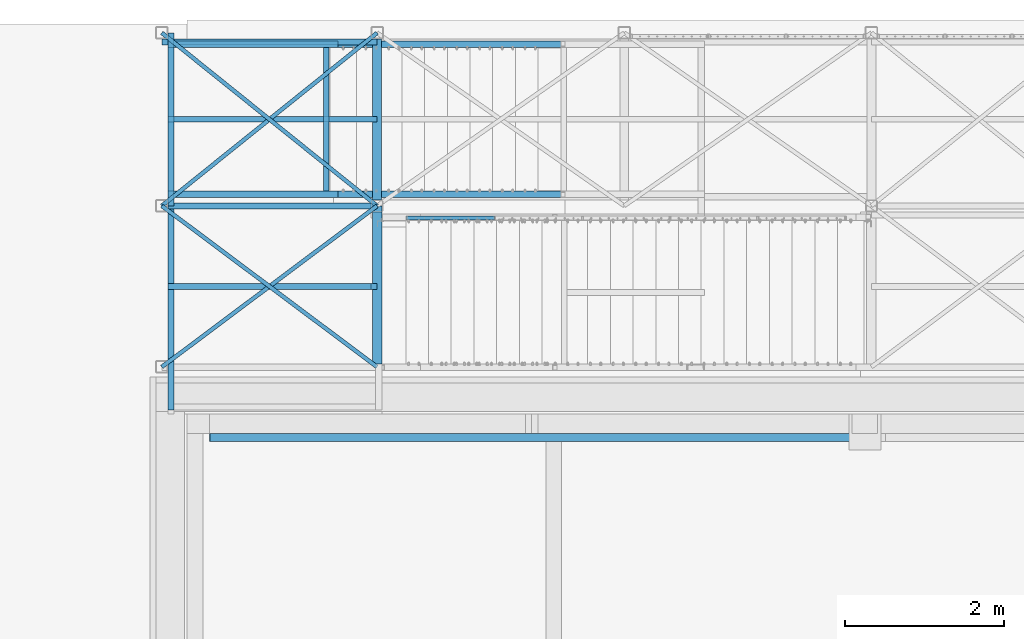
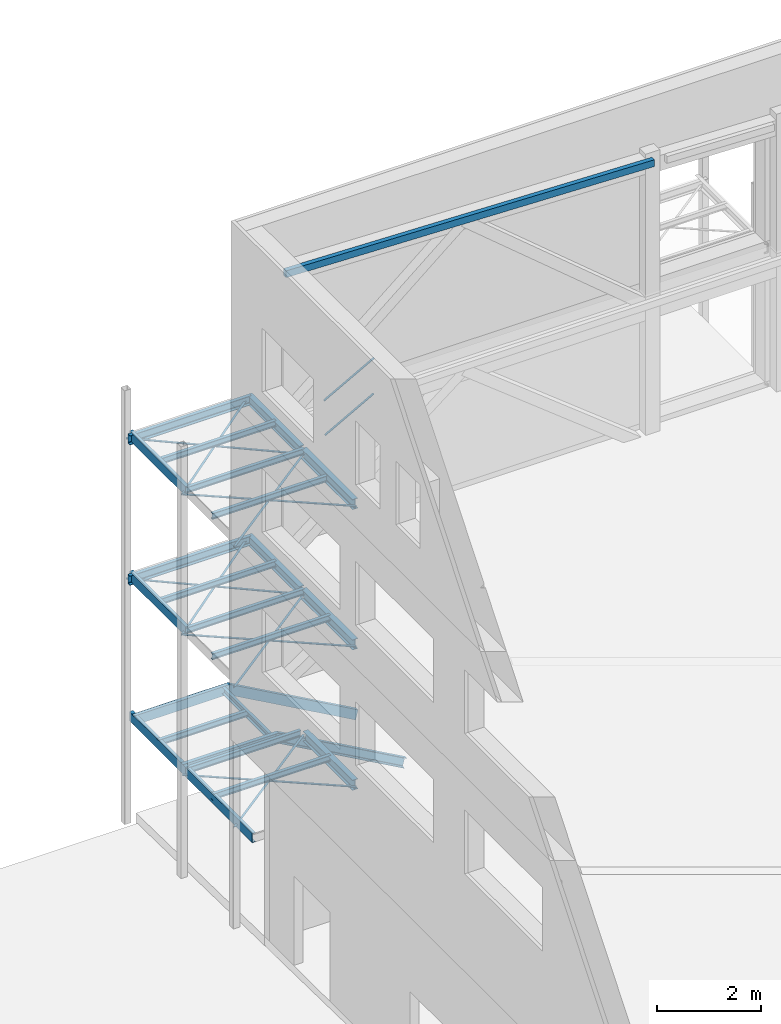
# One storey, part 30 of 78: 34 beams, 4 members, 35 elements without a shape of their own.
"""IFC2X3 building model written with IfcOpenShell, lengths in millimetres."""

from ifc_helpers import new_model, si_unit, frame, origin_with_axes, origin_2d_with_axis, place, context, subcontext, project, spatial, rectangle, i_section, l_section, u_section, extrude, boolean, clip, halfspace, material, type_object, element, aggregate, save


model = new_model("IFC2X3")

# Units and contexts
model_context = context("Model", 3, precision=1e-05, world=origin_with_axes())
body_context = subcontext(model_context, "Body", "Model", "MODEL_VIEW")
ifc_project = project(units=[si_unit("LENGTHUNIT", "METRE", prefix="MILLI"), si_unit("AREAUNIT", "SQUARE_METRE"), si_unit("VOLUMEUNIT", "CUBIC_METRE"), si_unit("MASSUNIT", "GRAM", prefix="KILO"), si_unit("TIMEUNIT", "SECOND"), si_unit("PLANEANGLEUNIT", "RADIAN"), si_unit("SOLIDANGLEUNIT", "STERADIAN"), si_unit("THERMODYNAMICTEMPERATUREUNIT", "DEGREE_CELSIUS"), si_unit("LUMINOUSINTENSITYUNIT", "LUMEN")], contexts=[model_context])

# Site, building, storey
site_placement = place(None, origin_with_axes())
site = spatial("IfcSite", under=ifc_project, at=site_placement, Name="Site", CompositionType="ELEMENT")
building_placement = place(site_placement, origin_with_axes())
building = spatial("IfcBuilding", under=site, at=building_placement, Name="Undefined", CompositionType="ELEMENT")
storey_placement = place(building_placement, origin_with_axes())
storey = spatial("IfcBuildingStorey", under=building, at=storey_placement, Name="Undefined", CompositionType="ELEMENT", Elevation=0.0)

# Assembly, beam
assembly_1_placement = place(storey_placement, origin_with_axes())
assembly_1 = element("IfcElementAssembly", 1, at=assembly_1_placement, inside=storey, AssemblyPlace="NOTDEFINED", PredefinedType="RIGID_FRAME")
ifc_material_1 = material(Name="STEEL/S235JR")
beam_type_1 = type_object("IfcBeamType", Name="UPN220", PredefinedType="NOTDEFINED")
beam_1_placement = place(assembly_1_placement, frame((-7326.42999992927, 30893.0000000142, 149960.039999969), z_axis=(0.0, 0.0, 1.0), x_axis=(1.0, 0.0, 0.0)))
beam_1 = element("IfcBeam", 2, at=beam_1_placement, type_object=beam_type_1, material=ifc_material_1, Name="LIMON", ObjectType="UPN220", context=body_context, shape_type="Clipping", body=[
    clip(extrude(u_section(Depth=220.0, FlangeWidth=80.0, WebThickness=9.0, FlangeThickness=12.5, FilletRadius=12.5, EdgeRadius=6.5, FlangeSlope=0.0798299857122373, at=origin_2d_with_axis()), frame((2133.89188770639, 0.0, 0.0), z_axis=(-1.0, 0.0, 0.0), x_axis=(0.0, -1.0, 0.0)), (0.0, 0.0, 1.0), 2133.89), halfspace(frame((2133.60501558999, -40.0000000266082, 110.000000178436), z_axis=(-0.967635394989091, 0.0, 0.252352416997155), x_axis=(0.0, -1.0, 0.0)), True)),
])

assembly_2_placement = place(storey_placement, origin_with_axes())
assembly_2 = element("IfcElementAssembly", 3, at=assembly_2_placement, inside=storey, AssemblyPlace="NOTDEFINED", PredefinedType="RIGID_FRAME")
beam_2_placement = place(assembly_2_placement, frame((-5192.82498437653, 32772.9999999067, 149960.039999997), z_axis=(0.0, 0.0, 1.0), x_axis=(-1.0, 0.0, 0.0)))
beam_2 = element("IfcBeam", 4, at=beam_2_placement, type_object=beam_type_1, material=ifc_material_1, Name="LIMON", ObjectType="UPN220", context=body_context, shape_type="Clipping", body=[
    clip(extrude(u_section(Depth=220.0, FlangeWidth=80.0, WebThickness=9.0, FlangeThickness=12.5, FilletRadius=12.5, EdgeRadius=6.5, FlangeSlope=0.0798299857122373, at=origin_2d_with_axis()), frame((2133.60501558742, 0.0, 0.0), z_axis=(-1.0, 0.0, 0.0), x_axis=(0.0, -1.0, 0.0)), (0.0, 0.0, 1.0), 2133.89), halfspace(frame((-1.64160519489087e-06, -39.9999999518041, 109.99999989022), z_axis=(-0.967635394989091, 0.0, -0.252352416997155), x_axis=(0.0, -1.0, 0.0)), False)),
])

assembly_3_placement = place(storey_placement, origin_with_axes())
assembly_3 = element("IfcElementAssembly", 5, at=assembly_3_placement, inside=storey, Name="POUTRE", AssemblyPlace="NOTDEFINED", PredefinedType="RIGID_FRAME")
ifc_material_2 = material(Name="STEEL/S275JR")
beam_3_placement = place(assembly_3_placement, frame((-7286.43, 30748.0, 156560.04), z_axis=(0.0, 0.0, 1.0), x_axis=(0.0, 1.0, 0.0)))
beam_3 = element("IfcBeam", 6, at=beam_3_placement, type_object=beam_type_1, material=ifc_material_2, Name="POUTRE", ObjectType="UPN220", context=body_context, shape_type="SweptSolid", body=[
    extrude(u_section(Depth=220.0, FlangeWidth=80.0, WebThickness=9.0, FlangeThickness=12.5, FilletRadius=12.5, EdgeRadius=6.5, FlangeSlope=0.0798299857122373, at=origin_2d_with_axis()), frame((2169.99999999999, 0.0, 0.0), z_axis=(-1.0, 0.0, 0.0), x_axis=(0.0, -1.0, 0.0)), (0.0, 0.0, 1.0), 2170.0),
])
aggregate(assembly_3, [beam_3])

assembly_4_placement = place(storey_placement, origin_with_axes())
assembly_4 = element("IfcElementAssembly", 7, at=assembly_4_placement, inside=storey, Name="POUTRE", AssemblyPlace="NOTDEFINED", PredefinedType="RIGID_FRAME")
beam_4_placement = place(assembly_4_placement, frame((-7401.43, 32803.0, 156560.04), z_axis=(0.0, 0.0, 1.0), x_axis=(1.0, 0.0, 0.0)))
beam_4 = element("IfcBeam", 8, at=beam_4_placement, type_object=beam_type_1, material=ifc_material_2, Name="POUTRE", ObjectType="UPN220", context=body_context, shape_type="SweptSolid", body=[
    extrude(u_section(Depth=220.0, FlangeWidth=80.0, WebThickness=9.0, FlangeThickness=12.5, FilletRadius=12.5, EdgeRadius=6.5, FlangeSlope=0.0798299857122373, at=origin_2d_with_axis()), frame((2699.99999999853, 0.0, 0.0), z_axis=(-1.0, 0.0, 0.0), x_axis=(0.0, -1.0, 0.0)), (0.0, 0.0, 1.0), 2700.0),
])
aggregate(assembly_4, [beam_4])

assembly_5_placement = place(storey_placement, origin_with_axes())
assembly_5 = element("IfcElementAssembly", 9, at=assembly_5_placement, inside=storey, Name="POUTRE", AssemblyPlace="NOTDEFINED", PredefinedType="RIGID_FRAME")
beam_5_placement = place(assembly_5_placement, frame((-7286.43, 30748.0, 153260.04), z_axis=(0.0, 0.0, 1.0), x_axis=(0.0, 1.0, 0.0)))
beam_5 = element("IfcBeam", 10, at=beam_5_placement, type_object=beam_type_1, material=ifc_material_2, Name="POUTRE", ObjectType="UPN220", context=body_context, shape_type="SweptSolid", body=[
    extrude(u_section(Depth=220.0, FlangeWidth=80.0, WebThickness=9.0, FlangeThickness=12.5, FilletRadius=12.5, EdgeRadius=6.5, FlangeSlope=0.0798299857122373, at=origin_2d_with_axis()), frame((2169.99999999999, 0.0, 0.0), z_axis=(-1.0, 0.0, 0.0), x_axis=(0.0, -1.0, 0.0)), (0.0, 0.0, 1.0), 2170.0),
])
aggregate(assembly_5, [beam_5])

assembly_6_placement = place(storey_placement, origin_with_axes())
assembly_6 = element("IfcElementAssembly", 11, at=assembly_6_placement, inside=storey, Name="STAB", AssemblyPlace="NOTDEFINED", PredefinedType="RIGID_FRAME")
beam_6_placement = place(assembly_6_placement, frame((-7401.43, 32803.0, 153260.04), z_axis=(0.0, 0.0, 1.0), x_axis=(1.0, 0.0, 0.0)))
beam_6 = element("IfcBeam", 12, at=beam_6_placement, type_object=beam_type_1, material=ifc_material_2, Name="POUTRE", ObjectType="UPN220", context=body_context, shape_type="SweptSolid", body=[
    extrude(u_section(Depth=220.0, FlangeWidth=80.0, WebThickness=9.0, FlangeThickness=12.5, FilletRadius=12.5, EdgeRadius=6.5, FlangeSlope=0.0798299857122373, at=origin_2d_with_axis()), frame((2699.99999999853, 0.0, 0.0), z_axis=(-1.0, 0.0, 0.0), x_axis=(0.0, -1.0, 0.0)), (0.0, 0.0, 1.0), 2700.0),
])
aggregate(assembly_6, [beam_6])

assembly_7_placement = place(storey_placement, origin_with_axes())
assembly_7 = element("IfcElementAssembly", 13, at=assembly_7_placement, inside=storey, Name="POUTRE", AssemblyPlace="NOTDEFINED", PredefinedType="RIGID_FRAME")
beam_7_placement = place(assembly_7_placement, frame((-7286.43, 30748.0, 149960.04), z_axis=(0.0, 0.0, 1.0), x_axis=(0.0, 1.0, 0.0)))
beam_7 = element("IfcBeam", 14, at=beam_7_placement, type_object=beam_type_1, material=ifc_material_2, Name="SOLIVE", ObjectType="UPN220", context=body_context, shape_type="SweptSolid", body=[
    extrude(u_section(Depth=220.0, FlangeWidth=80.0, WebThickness=9.0, FlangeThickness=12.5, FilletRadius=12.5, EdgeRadius=6.5, FlangeSlope=0.0798299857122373, at=origin_2d_with_axis()), frame((2169.99999999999, 0.0, 0.0), z_axis=(-1.0, 0.0, 0.0), x_axis=(0.0, -1.0, 0.0)), (0.0, 0.0, 1.0), 2170.0),
])
aggregate(assembly_7, [beam_7])

assembly_8_placement = place(storey_placement, origin_with_axes())
assembly_8 = element("IfcElementAssembly", 15, at=assembly_8_placement, inside=storey, Name="POUTRE", AssemblyPlace="NOTDEFINED", PredefinedType="RIGID_FRAME")
beam_8_placement = place(assembly_8_placement, frame((-7286.43, 28185.0, 149960.04), z_axis=(0.0, 0.0, 1.0), x_axis=(0.0, 1.0, 0.0)))
beam_8 = element("IfcBeam", 16, at=beam_8_placement, type_object=beam_type_1, material=ifc_material_2, Name="SOLIVE", ObjectType="UPN220", context=body_context, shape_type="SweptSolid", body=[
    extrude(u_section(Depth=220.0, FlangeWidth=80.0, WebThickness=9.0, FlangeThickness=12.5, FilletRadius=12.5, EdgeRadius=6.5, FlangeSlope=0.0798299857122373, at=origin_2d_with_axis()), frame((2563.0, 0.0, 0.0), z_axis=(-1.0, 0.0, 0.0), x_axis=(0.0, -1.0, 0.0)), (0.0, 0.0, 1.0), 2563.0),
])
aggregate(assembly_8, [beam_8])

assembly_9_placement = place(storey_placement, origin_with_axes())
assembly_9 = element("IfcElementAssembly", 17, at=assembly_9_placement, inside=storey, Name="STAB", AssemblyPlace="NOTDEFINED", PredefinedType="RIGID_FRAME")
beam_type_2 = type_object("IfcBeamType", Name="L50*5", PredefinedType="NOTDEFINED")
beam_9_placement = place(assembly_9_placement, frame((-4701.4299999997, 28727.9999999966, 156505.04), z_axis=(0.0, 0.0, -1.0), x_axis=(-0.800711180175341, 0.599050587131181, 0.0)))
beam_9 = element("IfcBeam", 18, at=beam_9_placement, type_object=beam_type_2, material=ifc_material_1, Name="STAB", ObjectType="L50*5", context=body_context, shape_type="SweptSolid", body=[
    extrude(l_section(Depth=50.0, Width=50.0, Thickness=5.0, FilletRadius=7.0, EdgeRadius=3.5, at=origin_2d_with_axis()), frame((3372.00237247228, 1.87183733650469e-13, 0.0), z_axis=(-1.0, 0.0, 0.0), x_axis=(0.0, -1.0, 0.0)), (0.0, 0.0, 1.0), 3372.0),
])
aggregate(assembly_9, [beam_9])

assembly_10_placement = place(storey_placement, origin_with_axes())
assembly_10 = element("IfcElementAssembly", 19, at=assembly_10_placement, inside=storey, Name="STAB", AssemblyPlace="NOTDEFINED", PredefinedType="RIGID_FRAME")
beam_10_placement = place(assembly_10_placement, frame((-4701.43000000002, 30748.0, 156505.04), z_axis=(0.0, 0.0, -1.0), x_axis=(-0.80071118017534, -0.599050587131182, 0.0)))
beam_10 = element("IfcBeam", 20, at=beam_10_placement, type_object=beam_type_2, material=ifc_material_1, Name="STAB", ObjectType="L50*5", context=body_context, shape_type="SweptSolid", body=[
    extrude(l_section(Depth=50.0, Width=50.0, Thickness=5.0, FilletRadius=7.0, EdgeRadius=3.5, at=origin_2d_with_axis()), frame((3372.00237247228, 1.87183733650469e-13, 0.0), z_axis=(-1.0, 0.0, 0.0), x_axis=(0.0, -1.0, 0.0)), (0.0, 0.0, 1.0), 3372.0),
])
aggregate(assembly_10, [beam_10])

assembly_11_placement = place(storey_placement, origin_with_axes())
assembly_11 = element("IfcElementAssembly", 21, at=assembly_11_placement, inside=storey, Name="STAB", AssemblyPlace="NOTDEFINED", PredefinedType="RIGID_FRAME")
beam_11_placement = place(assembly_11_placement, frame((-4701.43000000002, 30748.0, 156505.04), z_axis=(0.0, 0.0, -1.0), x_axis=(-0.779458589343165, 0.626453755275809, 0.0)))
beam_11 = element("IfcBeam", 22, at=beam_11_placement, type_object=beam_type_2, material=ifc_material_1, Name="STAB", ObjectType="L50*5", context=body_context, shape_type="SweptSolid", body=[
    extrude(l_section(Depth=50.0, Width=50.0, Thickness=5.0, FilletRadius=7.0, EdgeRadius=3.5, at=origin_2d_with_axis()), frame((3463.94284017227, 0.0, 2.91038304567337e-11), z_axis=(-1.0, 0.0, 0.0), x_axis=(0.0, -1.0, 0.0)), (0.0, 0.0, 1.0), 3463.94),
])
aggregate(assembly_11, [beam_11])

assembly_12_placement = place(storey_placement, origin_with_axes())
assembly_12 = element("IfcElementAssembly", 23, at=assembly_12_placement, inside=storey, Name="STAB", AssemblyPlace="NOTDEFINED", PredefinedType="RIGID_FRAME")
beam_12_placement = place(assembly_12_placement, frame((-4701.43000000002, 32918.0, 156505.04), z_axis=(0.0, 0.0, -1.0), x_axis=(-0.779458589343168, -0.626453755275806, 0.0)))
beam_12 = element("IfcBeam", 24, at=beam_12_placement, type_object=beam_type_2, material=ifc_material_1, Name="STAB", ObjectType="L50*5", context=body_context, shape_type="SweptSolid", body=[
    extrude(l_section(Depth=50.0, Width=50.0, Thickness=5.0, FilletRadius=7.0, EdgeRadius=3.5, at=origin_2d_with_axis()), frame((3463.94284017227, 0.0, 2.91038304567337e-11), z_axis=(-1.0, 0.0, 0.0), x_axis=(0.0, -1.0, 0.0)), (0.0, 0.0, 1.0), 3463.94),
])
aggregate(assembly_12, [beam_12])

assembly_13_placement = place(storey_placement, origin_with_axes())
assembly_13 = element("IfcElementAssembly", 25, at=assembly_13_placement, inside=storey, Name="STAB", AssemblyPlace="NOTDEFINED", PredefinedType="RIGID_FRAME")
beam_13_placement = place(assembly_13_placement, frame((-4701.4299999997, 28727.9999999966, 153205.04), z_axis=(0.0, 0.0, -1.0), x_axis=(-0.800711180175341, 0.599050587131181, 0.0)))
beam_13 = element("IfcBeam", 26, at=beam_13_placement, type_object=beam_type_2, material=ifc_material_1, Name="STAB", ObjectType="L50*5", context=body_context, shape_type="SweptSolid", body=[
    extrude(l_section(Depth=50.0, Width=50.0, Thickness=5.0, FilletRadius=7.0, EdgeRadius=3.5, at=origin_2d_with_axis()), frame((3372.00237247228, 1.87183733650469e-13, 0.0), z_axis=(-1.0, 0.0, 0.0), x_axis=(0.0, -1.0, 0.0)), (0.0, 0.0, 1.0), 3372.0),
])
aggregate(assembly_13, [beam_13])

assembly_14_placement = place(storey_placement, origin_with_axes())
assembly_14 = element("IfcElementAssembly", 27, at=assembly_14_placement, inside=storey, Name="STAB", AssemblyPlace="NOTDEFINED", PredefinedType="RIGID_FRAME")
beam_14_placement = place(assembly_14_placement, frame((-4701.43000000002, 30748.0, 153205.04), z_axis=(0.0, 0.0, -1.0), x_axis=(-0.80071118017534, -0.599050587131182, 0.0)))
beam_14 = element("IfcBeam", 28, at=beam_14_placement, type_object=beam_type_2, material=ifc_material_1, Name="STAB", ObjectType="L50*5", context=body_context, shape_type="SweptSolid", body=[
    extrude(l_section(Depth=50.0, Width=50.0, Thickness=5.0, FilletRadius=7.0, EdgeRadius=3.5, at=origin_2d_with_axis()), frame((3372.00237247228, 1.87183733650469e-13, 0.0), z_axis=(-1.0, 0.0, 0.0), x_axis=(0.0, -1.0, 0.0)), (0.0, 0.0, 1.0), 3372.0),
])
aggregate(assembly_14, [beam_14])

assembly_15_placement = place(storey_placement, origin_with_axes())
assembly_15 = element("IfcElementAssembly", 29, at=assembly_15_placement, inside=storey, Name="STAB", AssemblyPlace="NOTDEFINED", PredefinedType="RIGID_FRAME")
beam_15_placement = place(assembly_15_placement, frame((-4701.43000000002, 30748.0, 153205.04), z_axis=(0.0, 0.0, -1.0), x_axis=(-0.779458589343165, 0.626453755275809, 0.0)))
beam_15 = element("IfcBeam", 30, at=beam_15_placement, type_object=beam_type_2, material=ifc_material_1, Name="STAB", ObjectType="L50*5", context=body_context, shape_type="SweptSolid", body=[
    extrude(l_section(Depth=50.0, Width=50.0, Thickness=5.0, FilletRadius=7.0, EdgeRadius=3.5, at=origin_2d_with_axis()), frame((3463.94284017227, 0.0, 2.91038304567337e-11), z_axis=(-1.0, 0.0, 0.0), x_axis=(0.0, -1.0, 0.0)), (0.0, 0.0, 1.0), 3463.94),
])
aggregate(assembly_15, [beam_15])

assembly_16_placement = place(storey_placement, origin_with_axes())
assembly_16 = element("IfcElementAssembly", 31, at=assembly_16_placement, inside=storey, Name="STAB", AssemblyPlace="NOTDEFINED", PredefinedType="RIGID_FRAME")
beam_16_placement = place(assembly_16_placement, frame((-4701.43000000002, 32918.0, 153205.04), z_axis=(0.0, 0.0, -1.0), x_axis=(-0.779458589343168, -0.626453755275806, 0.0)))
beam_16 = element("IfcBeam", 32, at=beam_16_placement, type_object=beam_type_2, material=ifc_material_1, Name="STAB", ObjectType="L50*5", context=body_context, shape_type="SweptSolid", body=[
    extrude(l_section(Depth=50.0, Width=50.0, Thickness=5.0, FilletRadius=7.0, EdgeRadius=3.5, at=origin_2d_with_axis()), frame((3463.94284017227, 0.0, 2.91038304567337e-11), z_axis=(-1.0, 0.0, 0.0), x_axis=(0.0, -1.0, 0.0)), (0.0, 0.0, 1.0), 3463.94),
])
aggregate(assembly_16, [beam_16])

assembly_17_placement = place(storey_placement, origin_with_axes())
assembly_17 = element("IfcElementAssembly", 33, at=assembly_17_placement, inside=storey, Name="STAB", AssemblyPlace="NOTDEFINED", PredefinedType="RIGID_FRAME")
beam_17_placement = place(assembly_17_placement, frame((-4701.4299999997, 28727.9999999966, 149905.04), z_axis=(0.0, 0.0, -1.0), x_axis=(-0.800711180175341, 0.599050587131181, 0.0)))
beam_17 = element("IfcBeam", 34, at=beam_17_placement, type_object=beam_type_2, material=ifc_material_1, Name="STAB", ObjectType="L50*5", context=body_context, shape_type="SweptSolid", body=[
    extrude(l_section(Depth=50.0, Width=50.0, Thickness=5.0, FilletRadius=7.0, EdgeRadius=3.5, at=origin_2d_with_axis()), frame((3372.00237247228, 1.87183733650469e-13, 0.0), z_axis=(-1.0, 0.0, 0.0), x_axis=(0.0, -1.0, 0.0)), (0.0, 0.0, 1.0), 3372.0),
])
aggregate(assembly_17, [beam_17])

assembly_18_placement = place(storey_placement, origin_with_axes())
assembly_18 = element("IfcElementAssembly", 35, at=assembly_18_placement, inside=storey, Name="STAB", AssemblyPlace="NOTDEFINED", PredefinedType="RIGID_FRAME")
beam_18_placement = place(assembly_18_placement, frame((-4701.43000000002, 30748.0, 149905.04), z_axis=(0.0, 0.0, -1.0), x_axis=(-0.80071118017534, -0.599050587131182, 0.0)))
beam_18 = element("IfcBeam", 36, at=beam_18_placement, type_object=beam_type_2, material=ifc_material_1, Name="STAB", ObjectType="L50*5", context=body_context, shape_type="SweptSolid", body=[
    extrude(l_section(Depth=50.0, Width=50.0, Thickness=5.0, FilletRadius=7.0, EdgeRadius=3.5, at=origin_2d_with_axis()), frame((3372.00237247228, 1.87183733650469e-13, 0.0), z_axis=(-1.0, 0.0, 0.0), x_axis=(0.0, -1.0, 0.0)), (0.0, 0.0, 1.0), 3372.0),
])
aggregate(assembly_18, [beam_18])

assembly_19_placement = place(storey_placement, origin_with_axes())
assembly_19 = element("IfcElementAssembly", 37, at=assembly_19_placement, inside=storey, AssemblyPlace="NOTDEFINED", PredefinedType="RIGID_FRAME")
beam_type_3 = type_object("IfcBeamType", Name="IPE140", PredefinedType="NOTDEFINED")
beam_19_placement = place(assembly_19_placement, frame((-7326.43, 29738.0, 156600.04), z_axis=(0.0, 0.0, 1.0), x_axis=(1.0, 0.0, 0.0)))
beam_19 = element("IfcBeam", 38, at=beam_19_placement, type_object=beam_type_3, material=ifc_material_2, Name="SOLIVE", ObjectType="IPE140", context=body_context, shape_type="SweptSolid", body=[
    extrude(i_section(OverallWidth=73.0, OverallDepth=140.0, WebThickness=4.699999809, FlangeThickness=6.900000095, FilletRadius=7.0, at=origin_2d_with_axis()), frame((2550.0, 0.0, 0.0), z_axis=(-1.0, 0.0, 0.0), x_axis=(0.0, -1.0, 0.0)), (0.0, 0.0, 1.0), 2550.0),
])
aggregate(assembly_19, [beam_19])

assembly_20_placement = place(storey_placement, origin_with_axes())
assembly_20 = element("IfcElementAssembly", 39, at=assembly_20_placement, inside=storey, Name="POUTRE", AssemblyPlace="NOTDEFINED", PredefinedType="RIGID_FRAME")
beam_20_placement = place(assembly_20_placement, frame((-4701.43, 30748.0, 156600.04), z_axis=(0.0, 0.0, 1.0), x_axis=(-1.0, 0.0, 0.0)))
beam_20 = element("IfcBeam", 40, at=beam_20_placement, type_object=beam_type_3, material=ifc_material_2, Name="POUTRE", ObjectType="IPE140", context=body_context, shape_type="SweptSolid", body=[
    extrude(i_section(OverallWidth=73.0, OverallDepth=140.0, WebThickness=4.699999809, FlangeThickness=6.900000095, FilletRadius=7.0, at=origin_2d_with_axis()), frame((2625.0, 0.0, 0.0), z_axis=(-1.0, 0.0, 0.0), x_axis=(0.0, -1.0, 0.0)), (0.0, 0.0, 1.0), 2625.0),
])
aggregate(assembly_20, [beam_20])

assembly_21_placement = place(storey_placement, origin_with_axes())
assembly_21 = element("IfcElementAssembly", 41, at=assembly_21_placement, inside=storey, Name="POUTRE", AssemblyPlace="NOTDEFINED", PredefinedType="RIGID_FRAME")
beam_21_placement = place(assembly_21_placement, frame((-4701.43, 31833.0, 156600.04), z_axis=(0.0, 0.0, 1.0), x_axis=(-1.0, 0.0, 0.0)))
beam_21 = element("IfcBeam", 42, at=beam_21_placement, type_object=beam_type_3, material=ifc_material_2, Name="POUTRE", ObjectType="IPE140", context=body_context, shape_type="SweptSolid", body=[
    extrude(i_section(OverallWidth=73.0, OverallDepth=140.0, WebThickness=4.699999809, FlangeThickness=6.900000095, FilletRadius=7.0, at=origin_2d_with_axis()), frame((2625.0, 0.0, 0.0), z_axis=(-1.0, 0.0, 0.0), x_axis=(0.0, -1.0, 0.0)), (0.0, 0.0, 1.0), 2625.0),
])
aggregate(assembly_21, [beam_21])

assembly_22_placement = place(storey_placement, origin_with_axes())
assembly_22 = element("IfcElementAssembly", 43, at=assembly_22_placement, inside=storey, AssemblyPlace="NOTDEFINED", PredefinedType="RIGID_FRAME")
beam_22_placement = place(assembly_22_placement, frame((-7326.43, 29738.0, 153300.04), z_axis=(0.0, 0.0, 1.0), x_axis=(1.0, 0.0, 0.0)))
beam_22 = element("IfcBeam", 44, at=beam_22_placement, type_object=beam_type_3, material=ifc_material_2, Name="SOLIVE", ObjectType="IPE140", context=body_context, shape_type="SweptSolid", body=[
    extrude(i_section(OverallWidth=73.0, OverallDepth=140.0, WebThickness=4.699999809, FlangeThickness=6.900000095, FilletRadius=7.0, at=origin_2d_with_axis()), frame((2625.0, 0.0, 0.0), z_axis=(-1.0, 0.0, 0.0), x_axis=(0.0, -1.0, 0.0)), (0.0, 0.0, 1.0), 2625.0),
])
aggregate(assembly_22, [beam_22])

assembly_23_placement = place(storey_placement, origin_with_axes())
assembly_23 = element("IfcElementAssembly", 45, at=assembly_23_placement, inside=storey, Name="POUTRE", AssemblyPlace="NOTDEFINED", PredefinedType="RIGID_FRAME")
beam_23_placement = place(assembly_23_placement, frame((-4701.43, 30748.0, 153300.04), z_axis=(0.0, 0.0, 1.0), x_axis=(-1.0, 0.0, 0.0)))
beam_23 = element("IfcBeam", 46, at=beam_23_placement, type_object=beam_type_3, material=ifc_material_2, Name="POUTRE", ObjectType="IPE140", context=body_context, shape_type="SweptSolid", body=[
    extrude(i_section(OverallWidth=73.0, OverallDepth=140.0, WebThickness=4.699999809, FlangeThickness=6.900000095, FilletRadius=7.0, at=origin_2d_with_axis()), frame((2625.0, 0.0, 0.0), z_axis=(-1.0, 0.0, 0.0), x_axis=(0.0, -1.0, 0.0)), (0.0, 0.0, 1.0), 2625.0),
])
aggregate(assembly_23, [beam_23])

assembly_24_placement = place(storey_placement, origin_with_axes())
assembly_24 = element("IfcElementAssembly", 47, at=assembly_24_placement, inside=storey, Name="POUTRE", AssemblyPlace="NOTDEFINED", PredefinedType="RIGID_FRAME")
beam_24_placement = place(assembly_24_placement, frame((-4701.43, 31833.0, 153300.04), z_axis=(0.0, 0.0, 1.0), x_axis=(-1.0, 0.0, 0.0)))
beam_24 = element("IfcBeam", 48, at=beam_24_placement, type_object=beam_type_3, material=ifc_material_2, Name="POUTRE", ObjectType="IPE140", context=body_context, shape_type="SweptSolid", body=[
    extrude(i_section(OverallWidth=73.0, OverallDepth=140.0, WebThickness=4.699999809, FlangeThickness=6.900000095, FilletRadius=7.0, at=origin_2d_with_axis()), frame((2625.0, 0.0, 0.0), z_axis=(-1.0, 0.0, 0.0), x_axis=(0.0, -1.0, 0.0)), (0.0, 0.0, 1.0), 2625.0),
])
aggregate(assembly_24, [beam_24])

assembly_25_placement = place(storey_placement, origin_with_axes())
assembly_25 = element("IfcElementAssembly", 49, at=assembly_25_placement, inside=storey, AssemblyPlace="NOTDEFINED", PredefinedType="RIGID_FRAME")
beam_25_placement = place(assembly_25_placement, frame((-7326.43, 31833.0, 150000.04), z_axis=(0.0, 0.0, 1.0), x_axis=(1.0, 0.0, 0.0)))
beam_25 = element("IfcBeam", 50, at=beam_25_placement, type_object=beam_type_3, material=ifc_material_2, Name="SOLIVE", ObjectType="IPE140", context=body_context, shape_type="SweptSolid", body=[
    extrude(i_section(OverallWidth=73.0, OverallDepth=140.0, WebThickness=4.699999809, FlangeThickness=6.900000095, FilletRadius=7.0, at=origin_2d_with_axis()), frame((2020.0, 0.0, 0.0), z_axis=(-1.0, 0.0, 0.0), x_axis=(0.0, -1.0, 0.0)), (0.0, 0.0, 1.0), 2020.0),
])
aggregate(assembly_25, [beam_25])

assembly_26_placement = place(storey_placement, origin_with_axes())
assembly_26 = element("IfcElementAssembly", 51, at=assembly_26_placement, inside=storey, AssemblyPlace="NOTDEFINED", PredefinedType="RIGID_FRAME")
beam_26_placement = place(assembly_26_placement, frame((-7326.43, 29738.0, 150000.04), z_axis=(0.0, 0.0, 1.0), x_axis=(1.0, 0.0, 0.0)))
beam_26 = element("IfcBeam", 52, at=beam_26_placement, type_object=beam_type_3, material=ifc_material_2, Name="SOLIVE", ObjectType="IPE140", context=body_context, shape_type="SweptSolid", body=[
    extrude(i_section(OverallWidth=73.0, OverallDepth=140.0, WebThickness=4.699999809, FlangeThickness=6.900000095, FilletRadius=7.0, at=origin_2d_with_axis()), frame((2625.0, 0.0, 0.0), z_axis=(-1.0, 0.0, 0.0), x_axis=(0.0, -1.0, 0.0)), (0.0, 0.0, 1.0), 2625.0),
])
aggregate(assembly_26, [beam_26])

assembly_27_placement = place(storey_placement, origin_with_axes())
assembly_27 = element("IfcElementAssembly", 53, at=assembly_27_placement, inside=storey, Name="POUTRE", AssemblyPlace="NOTDEFINED", PredefinedType="RIGID_FRAME")
beam_27_placement = place(assembly_27_placement, frame((-7326.43, 30748.0, 150000.04), z_axis=(0.0, 0.0, 1.0), x_axis=(1.0, 0.0, 0.0)))
beam_27 = element("IfcBeam", 54, at=beam_27_placement, type_object=beam_type_3, material=ifc_material_2, Name="SOLIVE", ObjectType="IPE140", context=body_context, shape_type="SweptSolid", body=[
    extrude(i_section(OverallWidth=73.0, OverallDepth=140.0, WebThickness=4.699999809, FlangeThickness=6.900000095, FilletRadius=7.0, at=origin_2d_with_axis()), frame((2550.0, 0.0, 0.0), z_axis=(-1.0, 0.0, 0.0), x_axis=(0.0, -1.0, 0.0)), (0.0, 0.0, 1.0), 2550.0),
])
aggregate(assembly_27, [beam_27])

# Assembly, members
assembly_28_placement = place(storey_placement, origin_with_axes())
assembly_28 = element("IfcElementAssembly", 55, at=assembly_28_placement, inside=storey, Name="MAIN_COURANTE", AssemblyPlace="NOTDEFINED", PredefinedType="RIGID_FRAME")
member_type_1 = type_object("IfcMemberType", Name="PL10*50", PredefinedType="NOTDEFINED")
member_1_placement = place(assembly_28_placement, frame((-4337.00571555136, 30592.9999997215, 156915.322287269), z_axis=(0.0, -1.0, 0.0), x_axis=(0.875241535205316, 0.0, 0.483686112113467)))
solid_1 = boolean("DIFFERENCE", extrude(rectangle(XDim=20.0, YDim=50.0, at=origin_2d_with_axis()), frame((416.349393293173, 732.719574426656, 7.27595761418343e-12), z_axis=(-0.483686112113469, -0.875241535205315, 0.0), x_axis=(0.875241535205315, -0.48368611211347, 0.0)), (0.0, 0.0, 1.0), 900.0), halfspace(frame((-14.5470550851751, -46.9978074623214, -24.9999999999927), z_axis=(0.0, 1.0, 0.0), x_axis=(1.0, 0.0, 0.0)), True))
solid_2 = boolean("DIFFERENCE", boolean("DIFFERENCE", extrude(rectangle(XDim=20.0, YDim=50.0, at=origin_2d_with_axis()), frame((1673.14532419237, 732.719574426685, 7.27595761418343e-12), z_axis=(-0.483686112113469, -0.875241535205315, 0.0), x_axis=(0.875241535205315, -0.48368611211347, 0.0)), (0.0, 0.0, 1.0), 900.0), halfspace(frame((1670.38216649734, 722.719574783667, 7.27595761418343e-12), z_axis=(0.0, 1.0, 0.0), x_axis=(0.0, 0.0, -1.0)), False)), halfspace(frame((1242.24887581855, -46.9978074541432, -24.9999999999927), z_axis=(0.0, 1.0, 0.0), x_axis=(1.0, 0.0, 0.0)), True))
member_1 = element("IfcMember", 56, at=member_1_placement, type_object=member_type_1, material=ifc_material_1, Name="LISSE", ObjectType="PL10*50", context=body_context, shape_type="CSG", body=[
    boolean("DIFFERENCE", boolean("DIFFERENCE", boolean("DIFFERENCE", extrude(rectangle(XDim=10.0, YDim=50.0, at=origin_2d_with_axis()), frame((1268.22134841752, -2.91038304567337e-11, 0.0), z_axis=(-1.0, 0.0, 0.0), x_axis=(0.0, -1.0, 0.0)), (0.0, 0.0, 1.0), 1268.22), solid_1), solid_2), halfspace(frame((0.0, 0.0, 50.0), z_axis=(0.875241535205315, -0.48368611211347, 0.0), x_axis=(0.48368611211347, 0.875241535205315, 0.0)), True)),
])
member_2_placement = place(assembly_28_placement, frame((-3227.0057155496, 30592.9999997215, 158360.193340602), z_axis=(0.0, -1.0, 0.0), x_axis=(-0.875241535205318, 0.0, -0.483686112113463)))
member_2 = element("IfcMember", 57, at=member_2_placement, type_object=member_type_1, material=ifc_material_1, Name="MAIN_COURANTE", ObjectType="PL10*50", context=body_context, shape_type="Clipping", body=[
    clip(extrude(rectangle(XDim=10.0, YDim=50.0, at=origin_2d_with_axis()), frame((1275.28789395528, 7.07926991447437e-14, 0.0), z_axis=(-1.0, 0.0, 0.0), x_axis=(0.0, -1.0, 0.0)), (0.0, 0.0, 1.0), 1275.29), halfspace(frame((1268.22134852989, 1.97323970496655e-08, 50.0), z_axis=(-0.875241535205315, 0.483686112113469, 0.0), x_axis=(-0.483686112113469, -0.875241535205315, 0.0)), True)),
])
aggregate(assembly_28, [member_1, member_2])

# Assembly, beam
assembly_29_placement = place(storey_placement, origin_with_axes())
assembly_29 = element("IfcElementAssembly", 58, at=assembly_29_placement, inside=storey, Name="POUTRE", AssemblyPlace="NOTDEFINED", PredefinedType="NOTDEFINED")
ifc_material_3 = material(Name="TIMBER/CHENE")
beam_type_4 = type_object("IfcBeamType", Name="160*100", PredefinedType="NOTDEFINED")
beam_28_placement = place(assembly_29_placement, frame((-6800.35566241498, 27845.0000762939, 163269.201103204), z_axis=(0.030979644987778, 0.0, 0.999520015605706), x_axis=(0.999520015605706, 0.0, -0.0309796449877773)))
beam_28 = element("IfcBeam", 59, at=beam_28_placement, type_object=beam_type_4, material=ifc_material_3, Name="POUTRE", ObjectType="160*100", context=body_context, shape_type="SweptSolid", body=[
    extrude(rectangle(XDim=100.0, YDim=160.0, at=origin_2d_with_axis()), frame((8199.99986745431, -3.63797880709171e-12, 0.0), z_axis=(-1.0, 0.0, 0.0), x_axis=(0.0, -1.0, 0.0)), (0.0, 0.0, 1.0), 8200.0),
])
aggregate(assembly_29, [beam_28])

# Member
member_type_2 = type_object("IfcMemberType", Name="UPN220", PredefinedType="NOTDEFINED")
member_3_placement = place(assembly_1_placement, frame((-5246.54571298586, 30892.9999999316, 149974.049983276), z_axis=(0.488370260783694, 0.0, 0.872636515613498), x_axis=(0.872636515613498, 0.0, -0.488370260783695)))
member_3 = element("IfcMember", 60, at=member_3_placement, type_object=member_type_2, material=ifc_material_1, Name="LIMON", ObjectType="UPN220", context=body_context, shape_type="Clipping", body=[
    clip(clip(extrude(u_section(Depth=220.0, FlangeWidth=80.0, WebThickness=9.0, FlangeThickness=12.5, FilletRadius=12.5, EdgeRadius=6.5, FlangeSlope=0.0798299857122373, at=origin_2d_with_axis()), frame((3453.73541744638, 0.0, 1.43601943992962e-11), z_axis=(-1.0, 0.0, 0.0), x_axis=(0.0, -1.0, 0.0)), (0.0, 0.0, 1.0), 3584.13), halfspace(frame((3265.96463414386, 9.46238287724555e-09, 110.000000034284), z_axis=(0.96763539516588, 0.0, 0.252352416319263), x_axis=(0.0, 1.0, 0.0)), False)), halfspace(frame((-1.64160519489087e-06, -39.9999999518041, 109.99999989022), z_axis=(-0.967635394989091, 0.0, -0.252352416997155), x_axis=(0.0, -1.0, 0.0)), False)),
])

aggregate(assembly_1, [beam_1, member_3])

member_4_placement = place(assembly_2_placement, frame((-2396.54571298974, 32772.9999999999, 148379.049983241), z_axis=(0.488370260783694, 0.0, 0.872636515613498), x_axis=(-0.872636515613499, 0.0, 0.488370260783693)))
member_4 = element("IfcMember", 61, at=member_4_placement, type_object=member_type_2, material=ifc_material_1, Name="LIMON", ObjectType="UPN220", context=body_context, shape_type="Clipping", body=[
    clip(clip(extrude(u_section(Depth=220.0, FlangeWidth=80.0, WebThickness=9.0, FlangeThickness=12.5, FilletRadius=12.5, EdgeRadius=6.5, FlangeSlope=0.0798299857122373, at=origin_2d_with_axis()), frame((3396.36098496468, 0.0, 0.0), z_axis=(-1.0, 0.0, 0.0), x_axis=(0.0, -1.0, 0.0)), (0.0, 0.0, 1.0), 3584.13), halfspace(frame((3265.96463408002, -40.000000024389, 109.999999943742), z_axis=(-0.967635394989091, 0.0, 0.252352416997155), x_axis=(0.0, -1.0, 0.0)), True)), halfspace(frame((-5.94641824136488e-06, 2.39502696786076e-07, 109.999999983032), z_axis=(-0.967635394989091, 0.0, 0.252352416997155), x_axis=(0.0, -1.0, 0.0)), False)),
])

aggregate(assembly_2, [beam_2, member_4])

# Assembly, beam
assembly_30_placement = place(storey_placement, origin_with_axes())
assembly_30 = element("IfcElementAssembly", 62, at=assembly_30_placement, inside=storey, Name="POUTRE", AssemblyPlace="NOTDEFINED", PredefinedType="RIGID_FRAME")
beam_type_5 = type_object("IfcBeamType", Name="UPN160", PredefinedType="NOTDEFINED")
beam_29_placement = place(assembly_30_placement, frame((-5338.92999989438, 32732.999999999, 149990.039999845), z_axis=(0.0, 0.0, 1.0), x_axis=(0.0, -1.0, 0.0)))
beam_29 = element("IfcBeam", 63, at=beam_29_placement, type_object=beam_type_5, material=ifc_material_2, Name="POUTRE", ObjectType="UPN160", context=body_context, shape_type="SweptSolid", body=[
    extrude(u_section(Depth=160.0, FlangeWidth=65.0, WebThickness=7.5, FlangeThickness=10.5, FilletRadius=10.5, EdgeRadius=5.5, FlangeSlope=0.0798299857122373, at=origin_2d_with_axis()), frame((1800.0, 0.0, 0.0), z_axis=(-1.0, 0.0, 0.0), x_axis=(0.0, -1.0, 0.0)), (0.0, 0.0, 1.0), 1800.0),
])
aggregate(assembly_30, [beam_29])

assembly_31_placement = place(storey_placement, origin_with_axes())
assembly_31 = element("IfcElementAssembly", 64, at=assembly_31_placement, inside=storey, Name="CONSOLE", AssemblyPlace="NOTDEFINED", PredefinedType="RIGID_FRAME")
beam_type_6 = type_object("IfcBeamType", Name="IPE240", PredefinedType="NOTDEFINED")
beam_30_placement = place(assembly_31_placement, frame((-4701.43, 30748.0, 156550.04), z_axis=(0.0, 0.0, 1.0), x_axis=(0.0, -1.0, 0.0)))
beam_30 = element("IfcBeam", 65, at=beam_30_placement, type_object=beam_type_6, material=ifc_material_2, Name="CONSOLE", ObjectType="IPE240", context=body_context, shape_type="SweptSolid", body=[
    extrude(i_section(OverallWidth=120.0, OverallDepth=240.0, WebThickness=6.199999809, FlangeThickness=9.800000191, FilletRadius=15.0, at=origin_2d_with_axis()), frame((1985.0, 0.0, 0.0), z_axis=(-1.0, 0.0, 0.0), x_axis=(0.0, -1.0, 0.0)), (0.0, 0.0, 1.0), 1985.0),
])
aggregate(assembly_31, [beam_30])

assembly_32_placement = place(storey_placement, origin_with_axes())
assembly_32 = element("IfcElementAssembly", 66, at=assembly_32_placement, inside=storey, Name="CONSOLE", AssemblyPlace="NOTDEFINED", PredefinedType="RIGID_FRAME")
beam_31_placement = place(assembly_32_placement, frame((-4701.43, 30748.0, 153250.04), z_axis=(0.0, 0.0, 1.0), x_axis=(0.0, -1.0, 0.0)))
beam_31 = element("IfcBeam", 67, at=beam_31_placement, type_object=beam_type_6, material=ifc_material_2, Name="CONSOLE", ObjectType="IPE240", context=body_context, shape_type="SweptSolid", body=[
    extrude(i_section(OverallWidth=120.0, OverallDepth=240.0, WebThickness=6.199999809, FlangeThickness=9.800000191, FilletRadius=15.0, at=origin_2d_with_axis()), frame((1985.0, 0.0, 0.0), z_axis=(-1.0, 0.0, 0.0), x_axis=(0.0, -1.0, 0.0)), (0.0, 0.0, 1.0), 1985.0),
])
aggregate(assembly_32, [beam_31])

assembly_33_placement = place(storey_placement, origin_with_axes())
assembly_33 = element("IfcElementAssembly", 68, at=assembly_33_placement, inside=storey, Name="POUTRE", AssemblyPlace="NOTDEFINED", PredefinedType="RIGID_FRAME")
beam_32_placement = place(assembly_33_placement, frame((-4701.43, 30673.0, 149950.04), z_axis=(0.0, 0.0, 1.0), x_axis=(0.0, -1.0, 0.0)))
beam_32 = element("IfcBeam", 69, at=beam_32_placement, type_object=beam_type_6, material=ifc_material_2, Name="CONSOLE", ObjectType="IPE240", context=body_context, shape_type="SweptSolid", body=[
    extrude(i_section(OverallWidth=120.0, OverallDepth=240.0, WebThickness=6.199999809, FlangeThickness=9.800000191, FilletRadius=15.0, at=origin_2d_with_axis()), frame((1910.0, 0.0, 0.0), z_axis=(-1.0, 0.0, 0.0), x_axis=(0.0, -1.0, 0.0)), (0.0, 0.0, 1.0), 1910.0),
])
aggregate(assembly_33, [beam_32])

assembly_34_placement = place(storey_placement, origin_with_axes())
assembly_34 = element("IfcElementAssembly", 70, at=assembly_34_placement, inside=storey, Name="POUTRE", AssemblyPlace="NOTDEFINED", PredefinedType="RIGID_FRAME")
beam_type_7 = type_object("IfcBeamType", Name="IPE220", PredefinedType="NOTDEFINED")
beam_33_placement = place(assembly_34_placement, frame((-4701.43, 32843.0, 156560.04), z_axis=(0.0, 0.0, 1.0), x_axis=(0.0, -1.0, 0.0)))
beam_33 = element("IfcBeam", 71, at=beam_33_placement, type_object=beam_type_7, material=ifc_material_2, Name="POUTRE", ObjectType="IPE220", context=body_context, shape_type="SweptSolid", body=[
    extrude(i_section(OverallWidth=110.0, OverallDepth=220.0, WebThickness=5.900000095, FlangeThickness=9.199999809, FilletRadius=12.0, at=origin_2d_with_axis()), frame((2020.0, 0.0, 0.0), z_axis=(-1.0, 0.0, 0.0), x_axis=(0.0, -1.0, 0.0)), (0.0, 0.0, 1.0), 2020.0),
])
aggregate(assembly_34, [beam_33])

assembly_35_placement = place(storey_placement, origin_with_axes())
assembly_35 = element("IfcElementAssembly", 72, at=assembly_35_placement, inside=storey, Name="POUTRE", AssemblyPlace="NOTDEFINED", PredefinedType="RIGID_FRAME")
beam_34_placement = place(assembly_35_placement, frame((-4701.43, 32843.0, 153260.04), z_axis=(0.0, 0.0, 1.0), x_axis=(0.0, -1.0, 0.0)))
beam_34 = element("IfcBeam", 73, at=beam_34_placement, type_object=beam_type_7, material=ifc_material_2, Name="POUTRE", ObjectType="IPE220", context=body_context, shape_type="SweptSolid", body=[
    extrude(i_section(OverallWidth=110.0, OverallDepth=220.0, WebThickness=5.900000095, FlangeThickness=9.199999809, FilletRadius=12.0, at=origin_2d_with_axis()), frame((2020.0, 0.0, 0.0), z_axis=(-1.0, 0.0, 0.0), x_axis=(0.0, -1.0, 0.0)), (0.0, 0.0, 1.0), 2020.0),
])
aggregate(assembly_35, [beam_34])

save(model, "model.ifc")
